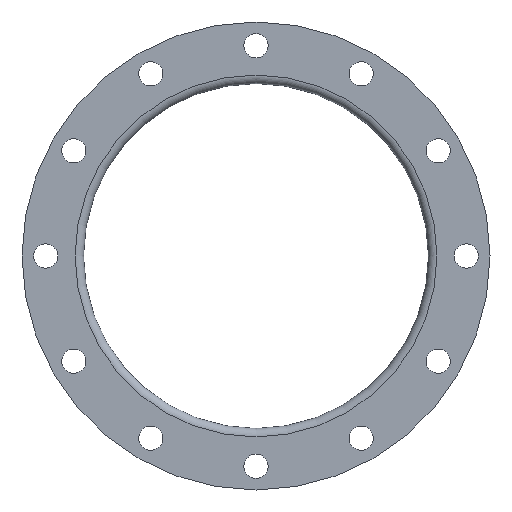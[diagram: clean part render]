
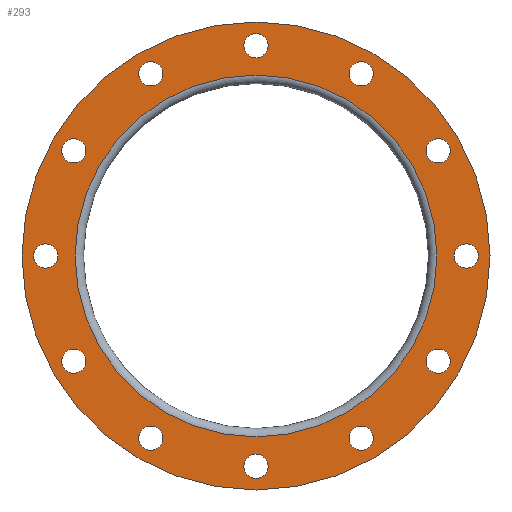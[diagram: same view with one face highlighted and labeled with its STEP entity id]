
A CAD part, front view. The second image highlights one B-rep face of the part: STEP entity #293.
In plain terms, the highlighted planar face has unit normal (0, -1, 0).
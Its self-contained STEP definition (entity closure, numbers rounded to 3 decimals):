
#13=PLANE($,#316);
#31=FACE_BOUND($,#92,.T.);
#32=FACE_BOUND($,#93,.T.);
#33=FACE_BOUND($,#94,.T.);
#34=FACE_BOUND($,#95,.T.);
#35=FACE_BOUND($,#96,.T.);
#36=FACE_BOUND($,#97,.T.);
#37=FACE_BOUND($,#98,.T.);
#38=FACE_BOUND($,#99,.T.);
#39=FACE_BOUND($,#100,.T.);
#40=FACE_BOUND($,#101,.T.);
#41=FACE_BOUND($,#102,.T.);
#42=FACE_BOUND($,#103,.T.);
#43=FACE_BOUND($,#104,.T.);
#73=FACE_OUTER_BOUND($,#91,.T.);
#91=EDGE_LOOP($,(#236));
#92=EDGE_LOOP($,(#237));
#93=EDGE_LOOP($,(#238));
#94=EDGE_LOOP($,(#239));
#95=EDGE_LOOP($,(#240));
#96=EDGE_LOOP($,(#241));
#97=EDGE_LOOP($,(#242));
#98=EDGE_LOOP($,(#243));
#99=EDGE_LOOP($,(#244));
#100=EDGE_LOOP($,(#245));
#101=EDGE_LOOP($,(#246));
#102=EDGE_LOOP($,(#247));
#103=EDGE_LOOP($,(#248));
#104=EDGE_LOOP($,(#249));
#146=CIRCLE($,#313,172.);
#148=CIRCLE($,#317,222.5);
#149=CIRCLE($,#318,11.5);
#150=CIRCLE($,#319,11.5);
#151=CIRCLE($,#320,11.5);
#152=CIRCLE($,#321,11.5);
#153=CIRCLE($,#322,11.5);
#154=CIRCLE($,#323,11.5);
#155=CIRCLE($,#324,11.5);
#156=CIRCLE($,#325,11.5);
#157=CIRCLE($,#326,11.5);
#158=CIRCLE($,#327,11.5);
#159=CIRCLE($,#328,11.5);
#160=CIRCLE($,#329,11.5);
#175=VERTEX_POINT($,#455);
#177=VERTEX_POINT($,#461);
#178=VERTEX_POINT($,#463);
#179=VERTEX_POINT($,#465);
#180=VERTEX_POINT($,#467);
#181=VERTEX_POINT($,#469);
#182=VERTEX_POINT($,#471);
#183=VERTEX_POINT($,#473);
#184=VERTEX_POINT($,#475);
#185=VERTEX_POINT($,#477);
#186=VERTEX_POINT($,#479);
#187=VERTEX_POINT($,#481);
#188=VERTEX_POINT($,#483);
#189=VERTEX_POINT($,#485);
#204=EDGE_CURVE($,#175,#175,#146,.T.);
#206=EDGE_CURVE($,#177,#177,#148,.T.);
#207=EDGE_CURVE($,#178,#178,#149,.T.);
#208=EDGE_CURVE($,#179,#179,#150,.T.);
#209=EDGE_CURVE($,#180,#180,#151,.T.);
#210=EDGE_CURVE($,#181,#181,#152,.T.);
#211=EDGE_CURVE($,#182,#182,#153,.T.);
#212=EDGE_CURVE($,#183,#183,#154,.T.);
#213=EDGE_CURVE($,#184,#184,#155,.T.);
#214=EDGE_CURVE($,#185,#185,#156,.T.);
#215=EDGE_CURVE($,#186,#186,#157,.T.);
#216=EDGE_CURVE($,#187,#187,#158,.T.);
#217=EDGE_CURVE($,#188,#188,#159,.T.);
#218=EDGE_CURVE($,#189,#189,#160,.T.);
#236=ORIENTED_EDGE($,*,*,#206,.F.);
#237=ORIENTED_EDGE($,*,*,#207,.T.);
#238=ORIENTED_EDGE($,*,*,#208,.T.);
#239=ORIENTED_EDGE($,*,*,#209,.T.);
#240=ORIENTED_EDGE($,*,*,#210,.T.);
#241=ORIENTED_EDGE($,*,*,#211,.T.);
#242=ORIENTED_EDGE($,*,*,#212,.T.);
#243=ORIENTED_EDGE($,*,*,#213,.T.);
#244=ORIENTED_EDGE($,*,*,#214,.T.);
#245=ORIENTED_EDGE($,*,*,#215,.T.);
#246=ORIENTED_EDGE($,*,*,#216,.T.);
#247=ORIENTED_EDGE($,*,*,#217,.T.);
#248=ORIENTED_EDGE($,*,*,#218,.T.);
#249=ORIENTED_EDGE($,*,*,#204,.F.);
#293=ADVANCED_FACE($,(#73,#31,#32,#33,#34,#35,#36,#37,#38,#39,#40,#41,#42,
#43),#13,.T.);
#313=AXIS2_PLACEMENT_3D($,#456,#363,#364);
#316=AXIS2_PLACEMENT_3D($,#460,#369,#370);
#317=AXIS2_PLACEMENT_3D($,#462,#371,#372);
#318=AXIS2_PLACEMENT_3D($,#464,#373,#374);
#319=AXIS2_PLACEMENT_3D($,#466,#375,#376);
#320=AXIS2_PLACEMENT_3D($,#468,#377,#378);
#321=AXIS2_PLACEMENT_3D($,#470,#379,#380);
#322=AXIS2_PLACEMENT_3D($,#472,#381,#382);
#323=AXIS2_PLACEMENT_3D($,#474,#383,#384);
#324=AXIS2_PLACEMENT_3D($,#476,#385,#386);
#325=AXIS2_PLACEMENT_3D($,#478,#387,#388);
#326=AXIS2_PLACEMENT_3D($,#480,#389,#390);
#327=AXIS2_PLACEMENT_3D($,#482,#391,#392);
#328=AXIS2_PLACEMENT_3D($,#484,#393,#394);
#329=AXIS2_PLACEMENT_3D($,#486,#395,#396);
#363=DIRECTION('center_axis',(0.,-1.,0.));
#364=DIRECTION('ref_axis',(1.,0.,0.));
#369=DIRECTION('center_axis',(0.,-1.,0.));
#370=DIRECTION('ref_axis',(0.,0.,-1.));
#371=DIRECTION('center_axis',(0.,1.,0.));
#372=DIRECTION('ref_axis',(-1.,0.,0.));
#373=DIRECTION('center_axis',(0.,1.,0.));
#374=DIRECTION('ref_axis',(1.,0.,0.));
#375=DIRECTION('center_axis',(0.,1.,0.));
#376=DIRECTION('ref_axis',(0.866,0.,-0.5));
#377=DIRECTION('center_axis',(0.,1.,0.));
#378=DIRECTION('ref_axis',(0.5,0.,-0.866));
#379=DIRECTION('center_axis',(0.,1.,0.));
#380=DIRECTION('ref_axis',(0.,0.,-1.));
#381=DIRECTION('center_axis',(0.,1.,0.));
#382=DIRECTION('ref_axis',(-0.5,0.,-0.866));
#383=DIRECTION('center_axis',(0.,1.,0.));
#384=DIRECTION('ref_axis',(-0.866,0.,-0.5));
#385=DIRECTION('center_axis',(0.,1.,0.));
#386=DIRECTION('ref_axis',(-1.,0.,0.));
#387=DIRECTION('center_axis',(0.,1.,0.));
#388=DIRECTION('ref_axis',(-0.866,0.,0.5));
#389=DIRECTION('center_axis',(0.,1.,0.));
#390=DIRECTION('ref_axis',(-0.5,0.,0.866));
#391=DIRECTION('center_axis',(0.,1.,0.));
#392=DIRECTION('ref_axis',(0.,0.,1.));
#393=DIRECTION('center_axis',(0.,1.,0.));
#394=DIRECTION('ref_axis',(0.5,0.,0.866));
#395=DIRECTION('center_axis',(0.,1.,0.));
#396=DIRECTION('ref_axis',(0.866,0.,0.5));
#455=CARTESIAN_POINT('',(-172.,0.,0.));
#456=CARTESIAN_POINT('Origin',(0.,0.,0.));
#460=CARTESIAN_POINT('Origin',(-111.25,0.,0.));
#461=CARTESIAN_POINT('',(-222.5,0.,0.));
#462=CARTESIAN_POINT('Origin',(0.,0.,0.));
#463=CARTESIAN_POINT('',(188.5,0.,0.));
#464=CARTESIAN_POINT('Origin',(200.,0.,0.));
#465=CARTESIAN_POINT('',(163.246,0.,-94.25));
#466=CARTESIAN_POINT('Origin',(173.205,0.,-100.));
#467=CARTESIAN_POINT('',(94.25,0.,-163.246));
#468=CARTESIAN_POINT('Origin',(100.,0.,-173.205));
#469=CARTESIAN_POINT('',(0.,0.,-188.5));
#470=CARTESIAN_POINT('Origin',(0.,0.,-200.));
#471=CARTESIAN_POINT('',(-94.25,0.,-163.246));
#472=CARTESIAN_POINT('Origin',(-100.,0.,-173.205));
#473=CARTESIAN_POINT('',(-163.246,0.,-94.25));
#474=CARTESIAN_POINT('Origin',(-173.205,0.,-100.));
#475=CARTESIAN_POINT('',(-188.5,0.,0.));
#476=CARTESIAN_POINT('Origin',(-200.,0.,0.));
#477=CARTESIAN_POINT('',(-163.246,0.,94.25));
#478=CARTESIAN_POINT('Origin',(-173.205,0.,100.));
#479=CARTESIAN_POINT('',(-94.25,0.,163.246));
#480=CARTESIAN_POINT('Origin',(-100.,0.,173.205));
#481=CARTESIAN_POINT('',(0.,0.,188.5));
#482=CARTESIAN_POINT('Origin',(0.,0.,200.));
#483=CARTESIAN_POINT('',(94.25,0.,163.246));
#484=CARTESIAN_POINT('Origin',(100.,0.,173.205));
#485=CARTESIAN_POINT('',(163.246,0.,94.25));
#486=CARTESIAN_POINT('Origin',(173.205,0.,100.));
